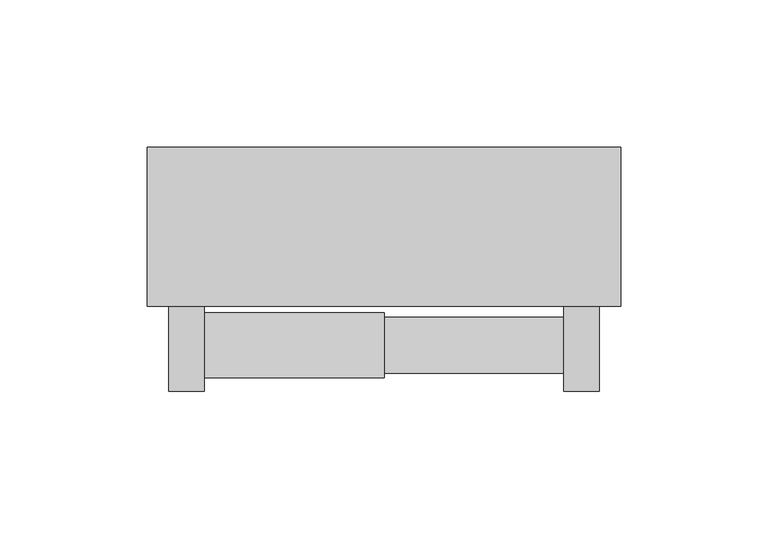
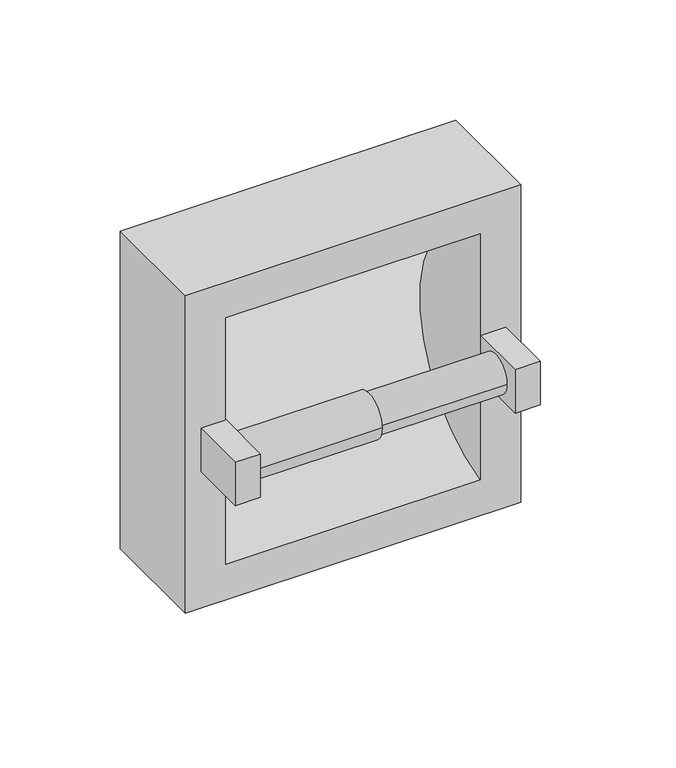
"""IFC4 building model written with IfcOpenShell, lengths in millimetres: proxy geometry, Toilet Roll Dispenser_Metlam_Single_Surface Mounted : 161w x 83d x 161h (ML260SM_S)."""

import ifcopenshell
import ifcopenshell.guid

model = None  # the IFC model being written
_history = None  # IfcOwnerHistory: only IFC2X3 demands one
_inside = {}  # id of a spatial element -> (the spatial element, [elements in it])
_under = {}  # id of a project, library or spatial element -> (it, [spatial elements below it])
_declared = {}  # id of a project -> (the project, [libraries it declares])
_typed = {}  # id of a type object -> (the type object, [elements of that type])
_made_of = {}  # id of a material, layer set ... -> (it, [elements and type objects made of it])


def new_model(schema):
    """Start an empty IFC model of exactly this schema.

    Asked for "IFC4X3", IfcOpenShell would pick the latest addendum, in which some entities
    have other attributes; the version numbers below select the first issue.
    IFC2X3 requires an IfcOwnerHistory on every rooted entity: one is made here for all.
    """
    global model, _history
    if schema == "IFC4X3":
        model = ifcopenshell.file(schema_version=(4, 3, 0, 0))
    else:
        model = ifcopenshell.file(schema=schema)
    _inside.clear()
    _under.clear()
    _declared.clear()
    _typed.clear()
    _made_of.clear()
    _history = None
    if model.schema == "IFC2X3":
        org = make("IfcOrganization", Name="unknown")
        user = make(
            "IfcPersonAndOrganization",
            ThePerson=make("IfcPerson", FamilyName="unknown"),
            TheOrganization=org,
        )
        app = make(
            "IfcApplication",
            ApplicationDeveloper=org,
            Version="unknown",
            ApplicationFullName="unknown",
            ApplicationIdentifier="unknown",
        )
        _history = make(
            "IfcOwnerHistory",
            OwningUser=user,
            OwningApplication=app,
            ChangeAction="ADDED",
            CreationDate=0,
        )
    return model


def make(cls, **values):
    """One entity of the class cls with the attributes given. An attribute that is None is left unset."""
    return model.create_entity(
        cls, **{name: value for name, value in values.items() if value is not None}
    )


def rooted(cls, **values):
    """An entity with a GlobalId (a new one), such as an element, a storey or a relation."""
    return make(cls, GlobalId=ifcopenshell.guid.new(), OwnerHistory=_history, **values)


def si_unit(unit_type, name, prefix=None):
    """IfcSIUnit, for example si_unit("LENGTHUNIT", "METRE", prefix="MILLI")."""
    return make("IfcSIUnit", UnitType=unit_type, Prefix=prefix, Name=name)


def assignment(units):
    """IfcUnitAssignment: the units of a project."""
    return None if units is None else make("IfcUnitAssignment", Units=units)


def point(xyz):
    """IfcCartesianPoint."""
    return None if xyz is None else make("IfcCartesianPoint", Coordinates=xyz)


def direction(xyz):
    """IfcDirection."""
    return None if xyz is None else make("IfcDirection", DirectionRatios=xyz)


def frame(location, z_axis=None, x_axis=None):
    """IfcAxis2Placement3D, a coordinate frame: its origin and axes. An axis left out is left unset."""
    return make(
        "IfcAxis2Placement3D",
        Location=point(location),
        Axis=direction(z_axis),
        RefDirection=direction(x_axis),
    )


def origin():
    """The frame at (0, 0, 0) with its axes left unset."""
    return frame((0.0, 0.0, 0.0))


def place(relative_to, where):
    """IfcLocalPlacement: puts the frame where relative to a parent placement (None: the world)."""
    return make(
        "IfcLocalPlacement", PlacementRelTo=relative_to, RelativePlacement=where
    )


def context(
    kind, dimensions, precision=None, world=None, true_north=None, identifier=None
):
    """IfcGeometricRepresentationContext, for example the 3D "Model" context."""
    return make(
        "IfcGeometricRepresentationContext",
        ContextIdentifier=identifier,
        ContextType=kind,
        CoordinateSpaceDimension=dimensions,
        Precision=precision,
        WorldCoordinateSystem=world,
        TrueNorth=true_north,
    )


def project(units=None, contexts=None):
    """IfcProject with its units and contexts."""
    return rooted(
        "IfcProject",
        Name="project",
        RepresentationContexts=contexts,
        UnitsInContext=assignment(units),
    )


def spatial(cls, under=None, at=None, **own):
    """A site, building, storey or space (cls), placed at a placement, below another one or the project."""
    s = rooted(cls, ObjectPlacement=at, **own)
    if under is not None:
        _under.setdefault(under.id(), (under, []))[1].append(s)
    return s


def polyline(points):
    """IfcPolyline through the points."""
    return make("IfcPolyline", Points=[point(p) for p in points])


def circle_curve(where, radius):
    """IfcCircle in the frame where."""
    return make("IfcCircle", Position=where, Radius=radius)


def outline(outer, holes=None, kind="AREA"):
    """IfcArbitraryClosedProfileDef: a profile drawn as a closed curve; with holes, ...WithVoids."""
    if holes is None:
        return make("IfcArbitraryClosedProfileDef", ProfileType=kind, OuterCurve=outer)
    return make(
        "IfcArbitraryProfileDefWithVoids",
        ProfileType=kind,
        OuterCurve=outer,
        InnerCurves=holes,
    )


def extrude(swept, where, along, depth):
    """IfcExtrudedAreaSolid: the profile swept, set in the frame where, extruded along a direction by depth."""
    return make(
        "IfcExtrudedAreaSolid",
        SweptArea=swept,
        Position=where,
        ExtrudedDirection=direction(along),
        Depth=depth,
    )


def shape(context_of_items, identifier, shape_type, items):
    """IfcShapeRepresentation: the items that make up one representation, for example the "Body"."""
    return make(
        "IfcShapeRepresentation",
        ContextOfItems=context_of_items,
        RepresentationIdentifier=identifier,
        RepresentationType=shape_type,
        Items=items,
    )


def source(mapping_origin, context_of_items, identifier, shape_type, items):
    """IfcRepresentationMap: a shape defined once, which mapped items show again and again."""
    return make(
        "IfcRepresentationMap",
        MappingOrigin=mapping_origin,
        MappedRepresentation=shape(context_of_items, identifier, shape_type, items),
    )


def transform(
    local_origin,
    x_axis=None,
    y_axis=None,
    z_axis=None,
    scale=None,
    scale2=None,
    scale3=None,
    uniform=True,
):
    """IfcCartesianTransformationOperator3D, or its non-uniform kind. x_axis, y_axis, z_axis: its Axis1, 2, 3."""
    if uniform:
        return make(
            "IfcCartesianTransformationOperator3D",
            Axis1=direction(x_axis),
            Axis2=direction(y_axis),
            LocalOrigin=point(local_origin),
            Scale=scale,
            Axis3=direction(z_axis),
        )
    return make(
        "IfcCartesianTransformationOperator3DnonUniform",
        Axis1=direction(x_axis),
        Axis2=direction(y_axis),
        LocalOrigin=point(local_origin),
        Scale=scale,
        Axis3=direction(z_axis),
        Scale2=scale2,
        Scale3=scale3,
    )


def mapped(mapping_source, mapping_target):
    """IfcMappedItem: shows the shape of a source again, moved by a transform."""
    return make(
        "IfcMappedItem", MappingSource=mapping_source, MappingTarget=mapping_target
    )


def made_of(thing, what):
    """Note that an element or type object is made of a material, layer set ...; save() writes the relation."""
    if what is not None:
        _made_of.setdefault(what.id(), (what, []))[1].append(thing)
    return thing


def element(
    cls,
    number,
    at=None,
    inside=None,
    cuts=None,
    type_object=None,
    material=None,
    context=None,
    identifier="Body",
    shape_type=None,
    held_by="IfcProductDefinitionShape",
    body=None,
    shapes=None,
    **own,
):
    """One element of the class cls, such as IfcWall. Its Tag is "e" and its number.

    at: its placement. inside: the storey or other place that contains it. cuts: it is an
    opening in that element (IfcRelVoidsElement). A single representation is given by context,
    identifier, shape_type and body (its items); several are given by shapes. held_by: the class
    of the entity that holds the representations. save() writes the other relations.
    """
    e = rooted(cls, Tag="e%d" % number, ObjectPlacement=at, **own)
    if body is not None:
        shapes = [shape(context, identifier, shape_type, body)]
    if shapes is not None:
        e.Representation = make(held_by, Representations=shapes)
    if inside is not None:
        _inside.setdefault(inside.id(), (inside, []))[1].append(e)
    if cuts is not None:
        rooted(
            "IfcRelVoidsElement", RelatingBuildingElement=cuts, RelatedOpeningElement=e
        )
    if type_object is not None:
        _typed.setdefault(type_object.id(), (type_object, []))[1].append(e)
    return made_of(e, material)


def aggregate(whole, parts):
    """IfcRelAggregates: a whole, such as a stair, and the parts it consists of."""
    return rooted("IfcRelAggregates", RelatingObject=whole, RelatedObjects=parts)


def save(model, path):
    """Write the relations noted so far, then the file.

    IfcRelAggregates (storeys below a building ...), IfcRelContainedInSpatialStructure (elements
    in a storey), IfcRelDefinesByType, IfcRelAssociatesMaterial and IfcRelDeclares: one each for
    every whole, place, type object, material and project.
    """
    for whole, parts in _under.values():
        aggregate(whole, parts)
    for where, things in _inside.values():
        rooted(
            "IfcRelContainedInSpatialStructure",
            RelatedElements=things,
            RelatingStructure=where,
        )
    for kind, things in _typed.values():
        rooted("IfcRelDefinesByType", RelatedObjects=things, RelatingType=kind)
    for what, things in _made_of.values():
        rooted("IfcRelAssociatesMaterial", RelatedObjects=things, RelatingMaterial=what)
    for by, libraries in _declared.values():
        rooted("IfcRelDeclares", RelatingContext=by, RelatedDefinitions=libraries)
    model.write(path)


def plane_surface(at):
    """IfcPlane: the flat surface through the origin of the frame at, square to its z axis."""
    return make("IfcPlane", Position=at)


def cylinder_surface(at, radius):
    """IfcCylindricalSurface: all points at the distance radius from the z axis of the frame at."""
    return make("IfcCylindricalSurface", Position=at, Radius=radius)


def revolved_surface(curve, axis_point, axis_direction):
    """IfcSurfaceOfRevolution: the curve turned about the line through axis_point along axis_direction."""
    return make(
        "IfcSurfaceOfRevolution",
        SweptCurve=make("IfcArbitraryOpenProfileDef", ProfileType="CURVE", Curve=curve),
        AxisPosition=make("IfcAxis1Placement", Location=point(axis_point), Axis=direction(axis_direction)),
    )


def advanced_brep(points, edges, surfaces, faces):
    """IfcAdvancedBrep: a solid bounded by faces that lie on surfaces and meet in shared edges.

    An edge is (start, end): straight between two places in points (the first is 0);
    or (start, end, curve); or (start, end, curve, False) where it runs against its curve.
    A face is (place in surfaces, loops), or (place, loops, False) where it looks against
    its surface's normal. A loop lists edges by number (the first is 1), with a minus sign
    where the edge is run from its end to its start. The first loop is the outer one.
    """
    corners = [point(p) for p in points]
    vertices = [make("IfcVertexPoint", VertexGeometry=c) for c in corners]
    made = []
    for start, end, *more in edges:
        made.append(
            make(
                "IfcEdgeCurve",
                EdgeStart=vertices[start],
                EdgeEnd=vertices[end],
                EdgeGeometry=more[0] if more else make("IfcPolyline", Points=[corners[start], corners[end]]),
                SameSense=more[1] if len(more) > 1 else True,
            )
        )
    hull = []
    for where, loops, *sense in faces:
        bounds = []
        for j, loop in enumerate(loops):
            ring = [make("IfcOrientedEdge", EdgeElement=made[abs(k) - 1], Orientation=k > 0) for k in loop]
            bounds.append(
                make(
                    "IfcFaceOuterBound" if j == 0 else "IfcFaceBound",
                    Bound=make("IfcEdgeLoop", EdgeList=ring),
                    Orientation=True,
                )
            )
        hull.append(make("IfcAdvancedFace", Bounds=bounds, FaceSurface=surfaces[where], SameSense=sense[0] if sense else True))
    return make("IfcAdvancedBrep", Outer=make("IfcClosedShell", CfsFaces=hull))


def specialty_equipment_d1306df7(model_context):
    return source(origin(), model_context, "Body", "SolidModel", [
        advanced_brep(
        [(80.5, -54.0, 665.5), (-80.5, -54.0, 665.5), (-80.5, -54.0, 504.5), (80.5, -54.0, 504.5), (61.1146464, -54.0, 647.4824309), (61.1146464, -54.0, 522.5175691), (-61.1146464, -54.0, 522.5175691), (-61.1146464, -54.0, 647.4824309), (80.5, 0.0, 665.5), (80.5, 0.0, 504.5), (-80.5, 0.0, 504.5), (-80.5, 0.0, 665.5)],
        [
            (0, 1),
            (1, 2),
            (2, 3),
            (3, 0),
            (4, 5),
            (5, 6),
            (6, 7),
            (7, 4),
            (8, 9),
            (9, 10),
            (10, 11),
            (11, 8),
            (0, 8),
            (11, 1),
            (10, 2),
            (9, 3),
            (4, 5, circle_curve(frame((61.1146464, -67.8544514, 585.0), z_axis=(-1.0, 0.0, 0.0), x_axis=(0.0, 1.0, 0.0)), 64.0)),
            (6, 7, circle_curve(frame((-61.1146464, -67.8544514, 585.0), z_axis=(1.0, 0.0, 0.0), x_axis=(0.0, 1.0, 0.0)), 64.0)),
        ],
        [
            plane_surface(frame((-80.5, -54.0, 665.5), z_axis=(0.0, -1.0, 0.0), x_axis=(-1.0, 0.0, 0.0))),
            plane_surface(frame((-80.5, 0.0, 665.5), z_axis=(0.0, 1.0, 0.0), x_axis=(1.0, 0.0, 0.0))),
            plane_surface(frame((80.5, -54.0, 665.5), z_axis=(0.0, 0.0, 1.0), x_axis=(0.0, 1.0, 0.0))),
            plane_surface(frame((-80.5, -54.0, 665.5), z_axis=(-1.0, 0.0, 0.0), x_axis=(0.0, 1.0, 0.0))),
            plane_surface(frame((-80.5, -54.0, 504.5), z_axis=(0.0, 0.0, -1.0), x_axis=(0.0, 1.0, 0.0))),
            plane_surface(frame((80.5, -54.0, 504.5), z_axis=(1.0, 0.0, 0.0), x_axis=(0.0, 1.0, 0.0))),
            plane_surface(frame((61.1146464, -54.0, 522.5175691), z_axis=(-1.0, 0.0, 0.0), x_axis=(0.0, 0.0, -1.0))),
            plane_surface(frame((-61.1146464, -54.0, 522.5175691), z_axis=(1.0, 0.0, 0.0), x_axis=(0.0, 0.0, 1.0))),
            revolved_surface(polyline([(61.1146464, -3.854451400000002, 585.0), (-61.1146464, -3.854451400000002, 585.0)]), (-61.1146464, -67.8544514, 585.0), (1.0, 0.0, 0.0)),
        ],
        [
            (0, [[1, 2, 3, 4], [5, 6, 7, 8]]),
            (1, [[9, 10, 11, 12]]),
            (2, [[-1, 13, -12, 14]]),
            (3, [[-2, -14, -11, 15]]),
            (4, [[-3, -15, -10, 16]]),
            (5, [[-4, -16, -9, -13]]),
            (6, [[17, -5]]),
            (7, [[18, -7]]),
            (8, [[-17, -8, -18, -6]]),
        ],
    ),
        extrude(outline(polyline([(-73.1248355, -83.0), (-73.1248355, -54.0), (-61.1146464, -54.0), (-61.1146464, -83.0), (-73.1248355, -83.0)])), frame((0.0, 0.0, 574.0), z_axis=(0.0, 0.0, 1.0), x_axis=(1.0, 0.0, 0.0)), (0.0, 0.0, 1.0), 22.0),
        extrude(outline(polyline([(73.1248355, -54.0), (73.1248355, -83.0), (61.1146464, -83.0), (61.1146464, -54.0), (73.1248355, -54.0)])), frame((0.0, 0.0, 574.0), z_axis=(0.0, 0.0, 1.0), x_axis=(1.0, 0.0, 0.0)), (0.0, 0.0, 1.0), 22.0),
        advanced_brep(
        [(-61.1146464, -56.3201367, 585.0), (-61.1146464, -78.3201367, 585.0), (-61.1146464, -67.3201367, 585.0), (0.0, -56.3201367, 585.0), (0.0, -78.3201367, 585.0), (0.0, -57.8201367, 585.0), (0.0, -76.8201367, 585.0), (61.1146464, -57.8201367, 585.0), (61.1146464, -76.8201367, 585.0), (61.1146464, -67.3201367, 585.0)],
        [
            (0, 1, circle_curve(frame((-61.1146464, -67.3201367, 585.0), z_axis=(-1.0, 0.0, 0.0), x_axis=(0.0, -1.0, 0.0)), 11.0)),
            (1, 2),
            (2, 0),
            (1, 0, circle_curve(frame((-61.1146464, -67.3201367, 585.0), z_axis=(-1.0, 0.0, 0.0), x_axis=(0.0, -1.0, 0.0)), 11.0)),
            (3, 4, circle_curve(frame((0.0, -67.3201367, 585.0), z_axis=(-1.0, 0.0, 0.0), x_axis=(0.0, -1.0, 0.0)), 11.0)),
            (4, 1),
            (0, 3),
            (4, 3, circle_curve(frame((0.0, -67.3201367, 585.0), z_axis=(-1.0, 0.0, 0.0), x_axis=(0.0, -1.0, 0.0)), 11.0)),
            (5, 6, circle_curve(frame((0.0, -67.3201367, 585.0), z_axis=(-1.0, 0.0, 0.0), x_axis=(0.0, -1.0, 0.0)), 9.5)),
            (6, 4),
            (3, 5),
            (6, 5, circle_curve(frame((0.0, -67.3201367, 585.0), z_axis=(-1.0, 0.0, 0.0), x_axis=(0.0, -1.0, 0.0)), 9.5)),
            (7, 8, circle_curve(frame((61.1146464, -67.3201367, 585.0), z_axis=(-1.0, 0.0, 0.0), x_axis=(0.0, -1.0, 0.0)), 9.5)),
            (8, 6),
            (5, 7),
            (8, 7, circle_curve(frame((61.1146464, -67.3201367, 585.0), z_axis=(-1.0, 0.0, 0.0), x_axis=(0.0, -1.0, 0.0)), 9.5)),
            (9, 8),
            (7, 9),
        ],
        [
            plane_surface(frame((-61.1146464, -67.3201367, 585.0), z_axis=(-1.0, 0.0, 0.0), x_axis=(0.0, -1.0, 0.0))),
            cylinder_surface(frame((-17.5, -67.3201367, 585.0), z_axis=(1.0, 0.0, 0.0), x_axis=(0.0, -1.0, 0.0)), 11.0),
            plane_surface(frame((0.0, -67.3201367, 585.0), z_axis=(1.0, 0.0, 0.0), x_axis=(0.0, -1.0, 0.0))),
            cylinder_surface(frame((-17.5, -67.3201367, 585.0), z_axis=(1.0, 0.0, 0.0), x_axis=(0.0, -1.0, 0.0)), 9.5),
            plane_surface(frame((61.1146464, -67.3201367, 585.0), z_axis=(1.0, 0.0, 0.0), x_axis=(0.0, -1.0, 0.0))),
        ],
        [
            (0, [[1, 2, 3]]),
            (0, [[4, -3, -2]]),
            (1, [[5, 6, -1, 7]]),
            (1, [[8, -7, -4, -6]]),
            (2, [[9, 10, -5, 11]]),
            (2, [[12, -11, -8, -10]]),
            (3, [[13, 14, -9, 15]]),
            (3, [[16, -15, -12, -14]]),
            (4, [[17, -13, 18]]),
            (4, [[-18, -16, -17]]),
        ],
    ),
    ])


if __name__ == "__main__":
    model = new_model("IFC4")
    model_context = context("Model", 3, world=origin())
    ifc_project = project(units=[si_unit("LENGTHUNIT", "METRE", prefix="MILLI")], contexts=[model_context])
    site = spatial("IfcSite", under=ifc_project)
    building = spatial("IfcBuilding", under=site)
    placement = place(None, origin())
    specialty_equipment_shape = specialty_equipment_d1306df7(model_context)
    element("IfcBuildingElementProxy", 1, Name="Toilet Roll Dispenser_Metlam_Single_Surface Mounted : 161w x 83d x 161h (ML260SM_S)", ObjectType="Toilet Roll Dispenser_Metlam_Single_Surface Mounted : 161w x 83d x 161h (ML260SM_S)", at=placement, inside=building, context=model_context, shape_type="MappedRepresentation", body=[
        mapped(specialty_equipment_shape, transform((0.0, 0.0, 0.0), x_axis=(1.0, 0.0, 0.0), y_axis=(0.0, 1.0, 0.0), z_axis=(0.0, 0.0, 1.0))),
    ])
    save(model, "model.ifc")
